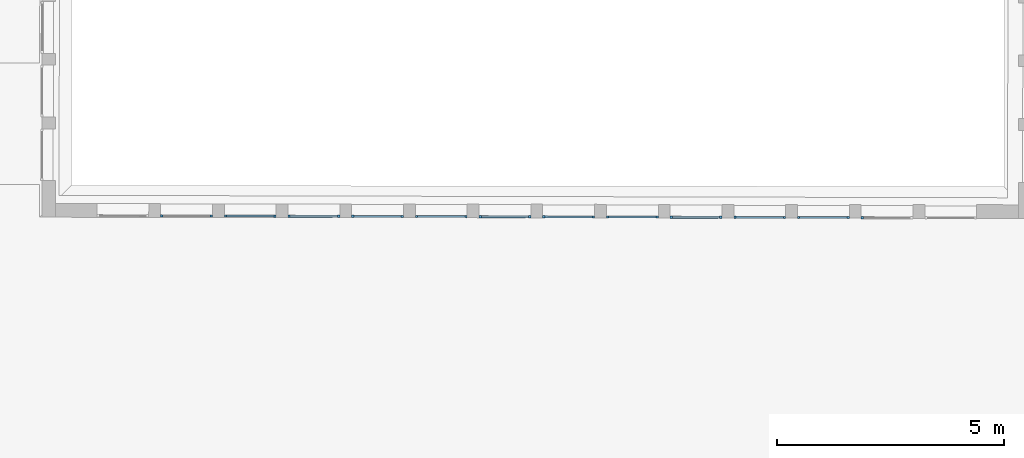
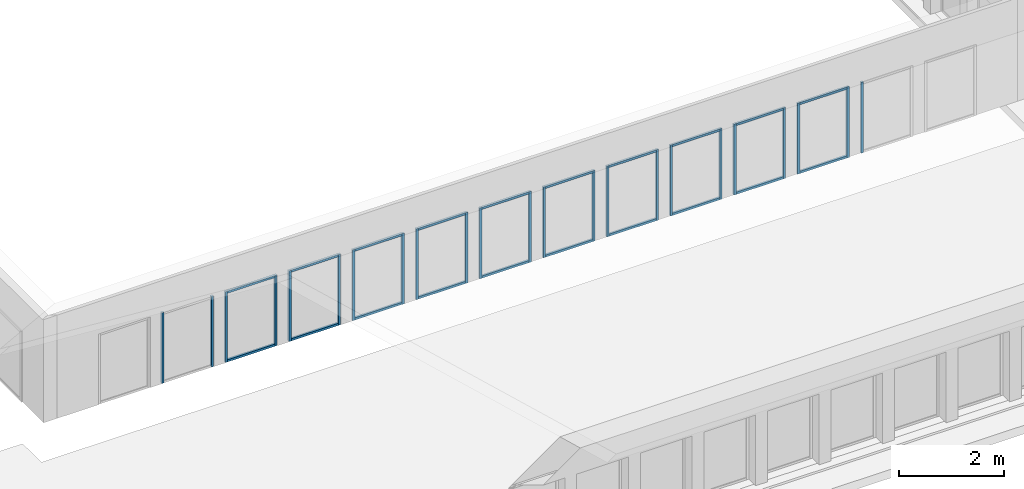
# One storey, part 6 of 26: 43 members, 12 elements without a shape of their own.
"""IFC2X3 building model written with IfcOpenShell, lengths in metres."""

from ifc_helpers import new_model, entity, si_unit, converted_unit, derived_unit, direction, frame, origin, origin_2d_with_axis, place, context, subcontext, project, spatial, rectangle, extrude, source, transform, mapped, material, type_object, type_shapes, element, aggregate, save


model = new_model("IFC2X3")

# Units and contexts
model_context = context("Model", 3, precision=1e-05, world=origin(), true_north=direction((6.123233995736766e-17, 1.0)))
body_context = subcontext(model_context, "Body", "Model", "MODEL_VIEW")
ifc_project = project(units=[si_unit("LENGTHUNIT", "METRE"), si_unit("AREAUNIT", "SQUARE_METRE"), converted_unit("PLANEANGLEUNIT", "DEGREE", entity("IfcPlaneAngleMeasure", 0.017453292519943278), si_unit("PLANEANGLEUNIT", "RADIAN"), dimensions=[0, 0, 0, 0, 0, 0, 0]), derived_unit("THERMALTRANSMITTANCEUNIT", [(si_unit("MASSUNIT", "GRAM", prefix="KILO"), 1), (si_unit("THERMODYNAMICTEMPERATUREUNIT", "KELVIN"), -1), (si_unit("TIMEUNIT", "SECOND"), -3)])], contexts=[model_context])

# Site, building, storey
site_placement = place(None, frame((1253.6752467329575, 2072.143113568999, 91.49999999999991), z_axis=(0.0, 0.0, 1.0), x_axis=(0.7237211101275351, 0.6900925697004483, 0.0)))
site = spatial("IfcSite", under=ifc_project, at=site_placement, Name="Surface", CompositionType="ELEMENT")
building_placement = place(site_placement, origin())
building = spatial("IfcBuilding", under=site, at=building_placement, CompositionType="ELEMENT")
storey_placement = place(building_placement, frame((0.0, 0.0, 7.0)))
storey = spatial("IfcBuildingStorey", under=building, at=storey_placement, Name="2-R+2", CompositionType="ELEMENT", Elevation=6.999999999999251)

# Curtain wall, member
curtain_wall_type = type_object("IfcCurtainWallType", Name="Mur-rideau:Menuiserie Ext 1F+1OB VERTIC", PredefinedType="NOTDEFINED")
curtain_wall_1_placement = place(storey_placement, frame((0.0, 0.0, -7.0)))
curtain_wall_1 = element("IfcCurtainWall", 1, at=curtain_wall_1_placement, inside=storey, type_object=curtain_wall_type, Name="Mur-rideau:Menuiserie Ext 1F+1OB VERTIC", ObjectType="Mur-rideau:Menuiserie Ext 1F+1OB VERTIC")
ifc_material = material(Name="OMD_Aluminium Men Ext")
member_type_1 = type_object("IfcMemberType", Name="Meneau rectangulaire:50x50", PredefinedType="MULLION", material=ifc_material)
shared_shape_1 = source(origin(), body_context, "Body", "SweptSolid", [
    extrude(rectangle(XDim=0.05, YDim=0.049999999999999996, at=origin_2d_with_axis()), frame((-0.025, 0.0, -1.039999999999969), z_axis=(0.0, 0.0, 1.0), x_axis=(-1.0, 0.0, 0.0)), (0.0, 0.0, 1.0), 1.0399999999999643),
])
type_shapes(member_type_1, [shared_shape_1])
member_1_placement = place(curtain_wall_1_placement, frame((163.32661227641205, -2.4502507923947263, 9.55), z_axis=(0.7228702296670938, -0.6909838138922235, 0.0), x_axis=(0.0, 0.0, 1.0)))
member_1 = element("IfcMember", 2, at=member_1_placement, type_object=member_type_1, material=ifc_material, Name="Meneau rectangulaire:50x50", ObjectType="Meneau rectangulaire:50x50", context=body_context, shape_type="MappedRepresentation", body=[
    mapped(shared_shape_1, transform((0.0, 0.0, 0.0), scale=1.0)),
])

curtain_wall_2_placement = place(storey_placement, frame((0.0, 0.0, -7.0)))
curtain_wall_2 = element("IfcCurtainWall", 3, at=curtain_wall_2_placement, inside=storey, type_object=curtain_wall_type, Name="Mur-rideau:Menuiserie Ext 1F+1OB VERTIC", ObjectType="Mur-rideau:Menuiserie Ext 1F+1OB VERTIC")
member_2_placement = place(curtain_wall_2_placement, frame((164.3373018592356, -3.419016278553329, 9.55), z_axis=(0.722870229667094, -0.6909838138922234, 0.0), x_axis=(0.0, 0.0, 1.0)))
member_2 = element("IfcMember", 4, at=member_2_placement, type_object=member_type_1, material=ifc_material, Name="Meneau rectangulaire:50x50", ObjectType="Meneau rectangulaire:50x50", context=body_context, shape_type="MappedRepresentation", body=[
    mapped(shared_shape_1, transform((0.0, 0.0, 0.0), scale=1.0)),
])

curtain_wall_3_placement = place(storey_placement, frame((0.0, 0.0, -7.0)))
curtain_wall_3 = element("IfcCurtainWall", 5, at=curtain_wall_3_placement, inside=storey, type_object=curtain_wall_type, Name="Mur-rideau:Menuiserie Ext 1F+1OB VERTIC", ObjectType="Mur-rideau:Menuiserie Ext 1F+1OB VERTIC")
member_3_placement = place(curtain_wall_3_placement, frame((165.34799144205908, -4.387781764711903, 9.55), z_axis=(0.722870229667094, -0.6909838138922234, 0.0), x_axis=(0.0, 0.0, 1.0)))
member_3 = element("IfcMember", 6, at=member_3_placement, type_object=member_type_1, material=ifc_material, Name="Meneau rectangulaire:50x50", ObjectType="Meneau rectangulaire:50x50", context=body_context, shape_type="MappedRepresentation", body=[
    mapped(shared_shape_1, transform((0.0, 0.0, 0.0), scale=1.0)),
])

curtain_wall_4_placement = place(storey_placement, frame((0.0, 0.0, -7.0)))
curtain_wall_4 = element("IfcCurtainWall", 7, at=curtain_wall_4_placement, inside=storey, type_object=curtain_wall_type, Name="Mur-rideau:Menuiserie Ext 1F+1OB VERTIC", ObjectType="Mur-rideau:Menuiserie Ext 1F+1OB VERTIC")
member_4_placement = place(curtain_wall_4_placement, frame((166.35868102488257, -5.35654725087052, 9.55), z_axis=(0.722870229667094, -0.6909838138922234, 0.0), x_axis=(0.0, 0.0, 1.0)))
member_4 = element("IfcMember", 8, at=member_4_placement, type_object=member_type_1, material=ifc_material, Name="Meneau rectangulaire:50x50", ObjectType="Meneau rectangulaire:50x50", context=body_context, shape_type="MappedRepresentation", body=[
    mapped(shared_shape_1, transform((0.0, 0.0, 0.0), scale=1.0)),
])

curtain_wall_5_placement = place(storey_placement, frame((0.0, 0.0, -7.0)))
curtain_wall_5 = element("IfcCurtainWall", 9, at=curtain_wall_5_placement, inside=storey, type_object=curtain_wall_type, Name="Mur-rideau:Menuiserie Ext 1F+1OB VERTIC", ObjectType="Mur-rideau:Menuiserie Ext 1F+1OB VERTIC")
member_5_placement = place(curtain_wall_5_placement, frame((167.36937060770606, -6.325312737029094, 9.55), z_axis=(0.7228702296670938, -0.6909838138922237, 0.0), x_axis=(0.0, 0.0, 1.0)))
member_5 = element("IfcMember", 10, at=member_5_placement, type_object=member_type_1, material=ifc_material, Name="Meneau rectangulaire:50x50", ObjectType="Meneau rectangulaire:50x50", context=body_context, shape_type="MappedRepresentation", body=[
    mapped(shared_shape_1, transform((0.0, 0.0, 0.0), scale=1.0)),
])

curtain_wall_6_placement = place(storey_placement, frame((0.0, 0.0, -7.0)))
curtain_wall_6 = element("IfcCurtainWall", 11, at=curtain_wall_6_placement, inside=storey, type_object=curtain_wall_type, Name="Mur-rideau:Menuiserie Ext 1F+1OB VERTIC", ObjectType="Mur-rideau:Menuiserie Ext 1F+1OB VERTIC")
member_6_placement = place(curtain_wall_6_placement, frame((168.38006019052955, -7.294078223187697, 9.55), z_axis=(0.7228702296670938, -0.6909838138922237, 0.0), x_axis=(0.0, 0.0, 1.0)))
member_6 = element("IfcMember", 12, at=member_6_placement, type_object=member_type_1, material=ifc_material, Name="Meneau rectangulaire:50x50", ObjectType="Meneau rectangulaire:50x50", context=body_context, shape_type="MappedRepresentation", body=[
    mapped(shared_shape_1, transform((0.0, 0.0, 0.0), scale=1.0)),
])

curtain_wall_7_placement = place(storey_placement, frame((0.0, 0.0, -7.0)))
curtain_wall_7 = element("IfcCurtainWall", 13, at=curtain_wall_7_placement, inside=storey, type_object=curtain_wall_type, Name="Mur-rideau:Menuiserie Ext 1F+1OB VERTIC", ObjectType="Mur-rideau:Menuiserie Ext 1F+1OB VERTIC")
member_7_placement = place(curtain_wall_7_placement, frame((169.39074977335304, -8.262843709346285, 9.55), z_axis=(0.7228702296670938, -0.6909838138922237, 0.0), x_axis=(0.0, 0.0, 1.0)))
member_7 = element("IfcMember", 14, at=member_7_placement, type_object=member_type_1, material=ifc_material, Name="Meneau rectangulaire:50x50", ObjectType="Meneau rectangulaire:50x50", context=body_context, shape_type="MappedRepresentation", body=[
    mapped(shared_shape_1, transform((0.0, 0.0, 0.0), scale=1.0)),
])

curtain_wall_8_placement = place(storey_placement, frame((0.0, 0.0, -7.0)))
curtain_wall_8 = element("IfcCurtainWall", 15, at=curtain_wall_8_placement, inside=storey, type_object=curtain_wall_type, Name="Mur-rideau:Menuiserie Ext 1F+1OB VERTIC", ObjectType="Mur-rideau:Menuiserie Ext 1F+1OB VERTIC")
member_8_placement = place(curtain_wall_8_placement, frame((170.40143935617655, -9.231609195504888, 9.55), z_axis=(0.7228702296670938, -0.6909838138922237, 0.0), x_axis=(0.0, 0.0, 1.0)))
member_8 = element("IfcMember", 16, at=member_8_placement, type_object=member_type_1, material=ifc_material, Name="Meneau rectangulaire:50x50", ObjectType="Meneau rectangulaire:50x50", context=body_context, shape_type="MappedRepresentation", body=[
    mapped(shared_shape_1, transform((0.0, 0.0, 0.0), scale=1.0)),
])

curtain_wall_9_placement = place(storey_placement, frame((0.0, 0.0, -7.0)))
curtain_wall_9 = element("IfcCurtainWall", 17, at=curtain_wall_9_placement, inside=storey, type_object=curtain_wall_type, Name="Mur-rideau:Menuiserie Ext 1F+1OB VERTIC", ObjectType="Mur-rideau:Menuiserie Ext 1F+1OB VERTIC")
member_9_placement = place(curtain_wall_9_placement, frame((171.41212893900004, -10.200374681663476, 9.55), z_axis=(0.7228702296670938, -0.6909838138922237, 0.0), x_axis=(0.0, 0.0, 1.0)))
member_9 = element("IfcMember", 18, at=member_9_placement, type_object=member_type_1, material=ifc_material, Name="Meneau rectangulaire:50x50", ObjectType="Meneau rectangulaire:50x50", context=body_context, shape_type="MappedRepresentation", body=[
    mapped(shared_shape_1, transform((0.0, 0.0, 0.0), scale=1.0)),
])

curtain_wall_10_placement = place(storey_placement, frame((0.0, 0.0, -7.0)))
curtain_wall_10 = element("IfcCurtainWall", 19, at=curtain_wall_10_placement, inside=storey, type_object=curtain_wall_type, Name="Mur-rideau:Menuiserie Ext 1F+1OB VERTIC", ObjectType="Mur-rideau:Menuiserie Ext 1F+1OB VERTIC")
member_10_placement = place(curtain_wall_10_placement, frame((172.4228185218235, -11.169140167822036, 9.55), z_axis=(0.7228702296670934, -0.6909838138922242, 0.0), x_axis=(0.0, 0.0, 1.0)))
member_10 = element("IfcMember", 20, at=member_10_placement, type_object=member_type_1, material=ifc_material, Name="Meneau rectangulaire:50x50", ObjectType="Meneau rectangulaire:50x50", context=body_context, shape_type="MappedRepresentation", body=[
    mapped(shared_shape_1, transform((0.0, 0.0, 0.0), scale=1.0)),
])

# Member
member_type_2 = type_object("IfcMemberType", Name="Meneau rectangulaire:50x50", PredefinedType="MULLION", material=ifc_material)
shared_shape_2 = source(origin(), body_context, "Body", "SweptSolid", [
    extrude(rectangle(XDim=0.05, YDim=0.05, at=origin_2d_with_axis()), frame((-0.025, 0.0, -1.0399999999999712), z_axis=(0.0, 0.0, 1.0), x_axis=(-1.0, 0.0, 0.0)), (0.0, 0.0, 1.0), 1.0399999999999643),
])
type_shapes(member_type_2, [shared_shape_2])
member_11_placement = place(curtain_wall_1_placement, frame((162.57482723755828, -1.7316276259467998, 7.9), z_axis=(-0.7228702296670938, 0.6909838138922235, 0.0), x_axis=(0.0, 0.0, -1.0)))
member_11 = element("IfcMember", 21, at=member_11_placement, type_object=member_type_2, material=ifc_material, Name="Meneau rectangulaire:50x50", ObjectType="Meneau rectangulaire:50x50", context=body_context, shape_type="MappedRepresentation", body=[
    mapped(shared_shape_2, transform((0.0, 0.0, 0.0), scale=1.0)),
])

member_12_placement = place(curtain_wall_2_placement, frame((163.58551682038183, -2.7003931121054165, 7.9), z_axis=(-0.722870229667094, 0.6909838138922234, 0.0), x_axis=(0.0, 0.0, -1.0)))
member_12 = element("IfcMember", 22, at=member_12_placement, type_object=member_type_2, material=ifc_material, Name="Meneau rectangulaire:50x50", ObjectType="Meneau rectangulaire:50x50", context=body_context, shape_type="MappedRepresentation", body=[
    mapped(shared_shape_2, transform((0.0, 0.0, 0.0), scale=1.0)),
])

member_13_placement = place(curtain_wall_3_placement, frame((164.59620640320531, -3.6691585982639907, 7.9), z_axis=(-0.722870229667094, 0.6909838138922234, 0.0), x_axis=(0.0, 0.0, -1.0)))
member_13 = element("IfcMember", 23, at=member_13_placement, type_object=member_type_2, material=ifc_material, Name="Meneau rectangulaire:50x50", ObjectType="Meneau rectangulaire:50x50", context=body_context, shape_type="MappedRepresentation", body=[
    mapped(shared_shape_2, transform((0.0, 0.0, 0.0), scale=1.0)),
])

member_14_placement = place(curtain_wall_4_placement, frame((165.6068959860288, -4.637924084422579, 7.9), z_axis=(-0.722870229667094, 0.6909838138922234, 0.0), x_axis=(0.0, 0.0, -1.0)))
member_14 = element("IfcMember", 24, at=member_14_placement, type_object=member_type_2, material=ifc_material, Name="Meneau rectangulaire:50x50", ObjectType="Meneau rectangulaire:50x50", context=body_context, shape_type="MappedRepresentation", body=[
    mapped(shared_shape_2, transform((0.0, 0.0, 0.0), scale=1.0)),
])

member_15_placement = place(curtain_wall_5_placement, frame((166.6175855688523, -5.6066895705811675, 7.9), z_axis=(-0.7228702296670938, 0.6909838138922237, 0.0), x_axis=(0.0, 0.0, -1.0)))
member_15 = element("IfcMember", 25, at=member_15_placement, type_object=member_type_2, material=ifc_material, Name="Meneau rectangulaire:50x50", ObjectType="Meneau rectangulaire:50x50", context=body_context, shape_type="MappedRepresentation", body=[
    mapped(shared_shape_2, transform((0.0, 0.0, 0.0), scale=1.0)),
])

member_16_placement = place(curtain_wall_6_placement, frame((167.62827515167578, -6.57545505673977, 7.9), z_axis=(-0.7228702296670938, 0.6909838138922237, 0.0), x_axis=(0.0, 0.0, -1.0)))
member_16 = element("IfcMember", 26, at=member_16_placement, type_object=member_type_2, material=ifc_material, Name="Meneau rectangulaire:50x50", ObjectType="Meneau rectangulaire:50x50", context=body_context, shape_type="MappedRepresentation", body=[
    mapped(shared_shape_2, transform((0.0, 0.0, 0.0), scale=1.0)),
])

member_17_placement = place(curtain_wall_7_placement, frame((168.63896473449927, -7.544220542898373, 7.9), z_axis=(-0.7228702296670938, 0.6909838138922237, 0.0), x_axis=(0.0, 0.0, -1.0)))
member_17 = element("IfcMember", 27, at=member_17_placement, type_object=member_type_2, material=ifc_material, Name="Meneau rectangulaire:50x50", ObjectType="Meneau rectangulaire:50x50", context=body_context, shape_type="MappedRepresentation", body=[
    mapped(shared_shape_2, transform((0.0, 0.0, 0.0), scale=1.0)),
])

member_18_placement = place(curtain_wall_8_placement, frame((169.64965431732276, -8.512986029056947, 7.9), z_axis=(-0.7228702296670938, 0.6909838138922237, 0.0), x_axis=(0.0, 0.0, -1.0)))
member_18 = element("IfcMember", 28, at=member_18_placement, type_object=member_type_2, material=ifc_material, Name="Meneau rectangulaire:50x50", ObjectType="Meneau rectangulaire:50x50", context=body_context, shape_type="MappedRepresentation", body=[
    mapped(shared_shape_2, transform((0.0, 0.0, 0.0), scale=1.0)),
])

member_19_placement = place(curtain_wall_9_placement, frame((170.66034390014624, -9.48175151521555, 7.9), z_axis=(-0.7228702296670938, 0.6909838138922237, 0.0), x_axis=(0.0, 0.0, -1.0)))
member_19 = element("IfcMember", 29, at=member_19_placement, type_object=member_type_2, material=ifc_material, Name="Meneau rectangulaire:50x50", ObjectType="Meneau rectangulaire:50x50", context=body_context, shape_type="MappedRepresentation", body=[
    mapped(shared_shape_2, transform((0.0, 0.0, 0.0), scale=1.0)),
])

member_20_placement = place(curtain_wall_10_placement, frame((171.67103348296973, -10.450517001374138, 7.9), z_axis=(-0.7228702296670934, 0.6909838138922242, 0.0), x_axis=(0.0, 0.0, -1.0)))
member_20 = element("IfcMember", 30, at=member_20_placement, type_object=member_type_2, material=ifc_material, Name="Meneau rectangulaire:50x50", ObjectType="Meneau rectangulaire:50x50", context=body_context, shape_type="MappedRepresentation", body=[
    mapped(shared_shape_2, transform((0.0, 0.0, 0.0), scale=1.0)),
])

# Curtain wall, member
curtain_wall_11_placement = place(storey_placement, frame((0.0, 0.0, -7.0)))
curtain_wall_11 = element("IfcCurtainWall", 31, at=curtain_wall_11_placement, inside=storey, type_object=curtain_wall_type, Name="Mur-rideau:Menuiserie Ext 1F+1OB VERTIC", ObjectType="Mur-rideau:Menuiserie Ext 1F+1OB VERTIC")
member_type_3 = type_object("IfcMemberType", Name="Meneau rectangulaire:50x50", PredefinedType="MULLION", material=ifc_material)
shared_shape_3 = source(origin(), body_context, "Body", "SweptSolid", [
    extrude(rectangle(XDim=0.05, YDim=0.05, at=origin_2d_with_axis()), frame((-0.025, 0.0, -1.6499999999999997), z_axis=(0.0, 0.0, 1.0), x_axis=(-1.0, 0.0, 0.0)), (0.0, 0.0, 1.0), 1.6499999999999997),
])
type_shapes(member_type_3, [shared_shape_3])
member_21_placement = place(curtain_wall_11_placement, frame((162.35206620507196, -1.5160344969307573, 7.9), z_axis=(0.0, 0.0, -1.0), x_axis=(0.7228702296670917, -0.6909838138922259, 0.0)))
member_21 = element("IfcMember", 32, at=member_21_placement, type_object=member_type_3, material=ifc_material, Name="Meneau rectangulaire:50x50", ObjectType="Meneau rectangulaire:50x50", context=body_context, shape_type="MappedRepresentation", body=[
    mapped(shared_shape_3, transform((0.0, 0.0, 0.0), scale=1.0)),
])

# Member
member_22_placement = place(curtain_wall_1_placement, frame((163.36275578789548, -2.4847999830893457, 7.9), z_axis=(0.0, 0.0, -1.0), x_axis=(0.7228702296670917, -0.6909838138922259, 0.0)))
member_22 = element("IfcMember", 33, at=member_22_placement, type_object=member_type_3, material=ifc_material, Name="Meneau rectangulaire:50x50", ObjectType="Meneau rectangulaire:50x50", context=body_context, shape_type="MappedRepresentation", body=[
    mapped(shared_shape_3, transform((0.0, 0.0, 0.0), scale=1.0)),
])

member_23_placement = place(curtain_wall_2_placement, frame((164.37344537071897, -3.4535654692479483, 7.9), z_axis=(0.0, 0.0, -1.0), x_axis=(0.7228702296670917, -0.6909838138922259, 0.0)))
member_23 = element("IfcMember", 34, at=member_23_placement, type_object=member_type_3, material=ifc_material, Name="Meneau rectangulaire:50x50", ObjectType="Meneau rectangulaire:50x50", context=body_context, shape_type="MappedRepresentation", body=[
    mapped(shared_shape_3, transform((0.0, 0.0, 0.0), scale=1.0)),
])

member_24_placement = place(curtain_wall_3_placement, frame((165.38413495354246, -4.422330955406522, 7.9), z_axis=(0.0, 0.0, -1.0), x_axis=(0.7228702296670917, -0.6909838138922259, 0.0)))
member_24 = element("IfcMember", 35, at=member_24_placement, type_object=member_type_3, material=ifc_material, Name="Meneau rectangulaire:50x50", ObjectType="Meneau rectangulaire:50x50", context=body_context, shape_type="MappedRepresentation", body=[
    mapped(shared_shape_3, transform((0.0, 0.0, 0.0), scale=1.0)),
])

member_25_placement = place(curtain_wall_4_placement, frame((166.39482453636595, -5.391096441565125, 7.9), z_axis=(0.0, 0.0, -1.0), x_axis=(0.7228702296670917, -0.6909838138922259, 0.0)))
member_25 = element("IfcMember", 36, at=member_25_placement, type_object=member_type_3, material=ifc_material, Name="Meneau rectangulaire:50x50", ObjectType="Meneau rectangulaire:50x50", context=body_context, shape_type="MappedRepresentation", body=[
    mapped(shared_shape_3, transform((0.0, 0.0, 0.0), scale=1.0)),
])

member_26_placement = place(curtain_wall_5_placement, frame((167.40551411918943, -6.359861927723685, 7.9), z_axis=(0.0, 0.0, -1.0), x_axis=(0.7228702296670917, -0.6909838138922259, 0.0)))
member_26 = element("IfcMember", 37, at=member_26_placement, type_object=member_type_3, material=ifc_material, Name="Meneau rectangulaire:50x50", ObjectType="Meneau rectangulaire:50x50", context=body_context, shape_type="MappedRepresentation", body=[
    mapped(shared_shape_3, transform((0.0, 0.0, 0.0), scale=1.0)),
])

member_27_placement = place(curtain_wall_6_placement, frame((168.4162037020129, -7.328627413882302, 7.9), z_axis=(0.0, 0.0, -1.0), x_axis=(0.7228702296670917, -0.6909838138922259, 0.0)))
member_27 = element("IfcMember", 38, at=member_27_placement, type_object=member_type_3, material=ifc_material, Name="Meneau rectangulaire:50x50", ObjectType="Meneau rectangulaire:50x50", context=body_context, shape_type="MappedRepresentation", body=[
    mapped(shared_shape_3, transform((0.0, 0.0, 0.0), scale=1.0)),
])

member_28_placement = place(curtain_wall_7_placement, frame((169.4268932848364, -8.29739290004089, 7.9), z_axis=(0.0, 0.0, -1.0), x_axis=(0.7228702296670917, -0.6909838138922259, 0.0)))
member_28 = element("IfcMember", 39, at=member_28_placement, type_object=member_type_3, material=ifc_material, Name="Meneau rectangulaire:50x50", ObjectType="Meneau rectangulaire:50x50", context=body_context, shape_type="MappedRepresentation", body=[
    mapped(shared_shape_3, transform((0.0, 0.0, 0.0), scale=1.0)),
])

member_29_placement = place(curtain_wall_8_placement, frame((170.4375828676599, -9.266158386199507, 7.9), z_axis=(0.0, 0.0, -1.0), x_axis=(0.7228702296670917, -0.6909838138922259, 0.0)))
member_29 = element("IfcMember", 40, at=member_29_placement, type_object=member_type_3, material=ifc_material, Name="Meneau rectangulaire:50x50", ObjectType="Meneau rectangulaire:50x50", context=body_context, shape_type="MappedRepresentation", body=[
    mapped(shared_shape_3, transform((0.0, 0.0, 0.0), scale=1.0)),
])

member_30_placement = place(curtain_wall_9_placement, frame((171.44827245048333, -10.234923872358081, 7.9), z_axis=(0.0, 0.0, -1.0), x_axis=(0.7228702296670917, -0.6909838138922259, 0.0)))
member_30 = element("IfcMember", 41, at=member_30_placement, type_object=member_type_3, material=ifc_material, Name="Meneau rectangulaire:50x50", ObjectType="Meneau rectangulaire:50x50", context=body_context, shape_type="MappedRepresentation", body=[
    mapped(shared_shape_3, transform((0.0, 0.0, 0.0), scale=1.0)),
])

member_31_placement = place(curtain_wall_10_placement, frame((172.45896203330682, -11.20368935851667, 7.9), z_axis=(0.0, 0.0, -1.0), x_axis=(0.7228702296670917, -0.6909838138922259, 0.0)))
member_31 = element("IfcMember", 42, at=member_31_placement, type_object=member_type_3, material=ifc_material, Name="Meneau rectangulaire:50x50", ObjectType="Meneau rectangulaire:50x50", context=body_context, shape_type="MappedRepresentation", body=[
    mapped(shared_shape_3, transform((0.0, 0.0, 0.0), scale=1.0)),
])

member_type_4 = type_object("IfcMemberType", Name="Meneau rectangulaire:50x50", PredefinedType="MULLION", material=ifc_material)
shared_shape_4 = source(origin(), body_context, "Body", "SweptSolid", [
    extrude(rectangle(XDim=0.05, YDim=0.05000000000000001, at=origin_2d_with_axis()), frame((-0.025, 0.0, -1.6499999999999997), z_axis=(0.0, 0.0, 1.0), x_axis=(-1.0, 0.0, 0.0)), (0.0, 0.0, 1.0), 1.6499999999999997),
])
type_shapes(member_type_4, [shared_shape_4])
member_32_placement = place(curtain_wall_11_placement, frame((161.5279941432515, -0.7283129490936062, 9.55), z_axis=(0.0, 0.0, 1.0), x_axis=(-0.7228702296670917, 0.6909838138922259, 0.0)))
member_32 = element("IfcMember", 43, at=member_32_placement, type_object=member_type_4, material=ifc_material, Name="Meneau rectangulaire:50x50", ObjectType="Meneau rectangulaire:50x50", context=body_context, shape_type="MappedRepresentation", body=[
    mapped(shared_shape_4, transform((0.0, 0.0, 0.0), scale=1.0)),
])

aggregate(curtain_wall_11, [member_21, member_32])

member_33_placement = place(curtain_wall_1_placement, frame((162.538683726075, -1.6970784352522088, 9.55), z_axis=(0.0, 0.0, 1.0), x_axis=(-0.7228702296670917, 0.6909838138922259, 0.0)))
member_33 = element("IfcMember", 44, at=member_33_placement, type_object=member_type_4, material=ifc_material, Name="Meneau rectangulaire:50x50", ObjectType="Meneau rectangulaire:50x50", context=body_context, shape_type="MappedRepresentation", body=[
    mapped(shared_shape_4, transform((0.0, 0.0, 0.0), scale=1.0)),
])

aggregate(curtain_wall_1, [member_1, member_11, member_22, member_33])

member_34_placement = place(curtain_wall_2_placement, frame((163.54937330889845, -2.665843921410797, 9.55), z_axis=(0.0, 0.0, 1.0), x_axis=(-0.7228702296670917, 0.6909838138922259, 0.0)))
member_34 = element("IfcMember", 45, at=member_34_placement, type_object=member_type_4, material=ifc_material, Name="Meneau rectangulaire:50x50", ObjectType="Meneau rectangulaire:50x50", context=body_context, shape_type="MappedRepresentation", body=[
    mapped(shared_shape_4, transform((0.0, 0.0, 0.0), scale=1.0)),
])

aggregate(curtain_wall_2, [member_2, member_12, member_23, member_34])

member_35_placement = place(curtain_wall_3_placement, frame((164.56006289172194, -3.6346094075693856, 9.55), z_axis=(0.0, 0.0, 1.0), x_axis=(-0.7228702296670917, 0.6909838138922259, 0.0)))
member_35 = element("IfcMember", 46, at=member_35_placement, type_object=member_type_4, material=ifc_material, Name="Meneau rectangulaire:50x50", ObjectType="Meneau rectangulaire:50x50", context=body_context, shape_type="MappedRepresentation", body=[
    mapped(shared_shape_4, transform((0.0, 0.0, 0.0), scale=1.0)),
])

aggregate(curtain_wall_3, [member_3, member_13, member_24, member_35])

member_36_placement = place(curtain_wall_4_placement, frame((165.57075247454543, -4.603374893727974, 9.55), z_axis=(0.0, 0.0, 1.0), x_axis=(-0.7228702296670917, 0.6909838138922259, 0.0)))
member_36 = element("IfcMember", 47, at=member_36_placement, type_object=member_type_4, material=ifc_material, Name="Meneau rectangulaire:50x50", ObjectType="Meneau rectangulaire:50x50", context=body_context, shape_type="MappedRepresentation", body=[
    mapped(shared_shape_4, transform((0.0, 0.0, 0.0), scale=1.0)),
])

aggregate(curtain_wall_4, [member_4, member_14, member_25, member_36])

member_37_placement = place(curtain_wall_5_placement, frame((166.58144205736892, -5.572140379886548, 9.55), z_axis=(0.0, 0.0, 1.0), x_axis=(-0.7228702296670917, 0.6909838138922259, 0.0)))
member_37 = element("IfcMember", 48, at=member_37_placement, type_object=member_type_4, material=ifc_material, Name="Meneau rectangulaire:50x50", ObjectType="Meneau rectangulaire:50x50", context=body_context, shape_type="MappedRepresentation", body=[
    mapped(shared_shape_4, transform((0.0, 0.0, 0.0), scale=1.0)),
])

aggregate(curtain_wall_5, [member_5, member_15, member_26, member_37])

member_38_placement = place(curtain_wall_6_placement, frame((167.5921316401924, -6.5409058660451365, 9.55), z_axis=(0.0, 0.0, 1.0), x_axis=(-0.7228702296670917, 0.6909838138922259, 0.0)))
member_38 = element("IfcMember", 49, at=member_38_placement, type_object=member_type_4, material=ifc_material, Name="Meneau rectangulaire:50x50", ObjectType="Meneau rectangulaire:50x50", context=body_context, shape_type="MappedRepresentation", body=[
    mapped(shared_shape_4, transform((0.0, 0.0, 0.0), scale=1.0)),
])

aggregate(curtain_wall_6, [member_6, member_16, member_27, member_38])

member_39_placement = place(curtain_wall_7_placement, frame((168.6028212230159, -7.509671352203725, 9.55), z_axis=(0.0, 0.0, 1.0), x_axis=(-0.7228702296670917, 0.6909838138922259, 0.0)))
member_39 = element("IfcMember", 50, at=member_39_placement, type_object=member_type_4, material=ifc_material, Name="Meneau rectangulaire:50x50", ObjectType="Meneau rectangulaire:50x50", context=body_context, shape_type="MappedRepresentation", body=[
    mapped(shared_shape_4, transform((0.0, 0.0, 0.0), scale=1.0)),
])

aggregate(curtain_wall_7, [member_7, member_17, member_28, member_39])

member_40_placement = place(curtain_wall_8_placement, frame((169.61351080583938, -8.478436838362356, 9.55), z_axis=(0.0, 0.0, 1.0), x_axis=(-0.7228702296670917, 0.6909838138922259, 0.0)))
member_40 = element("IfcMember", 51, at=member_40_placement, type_object=member_type_4, material=ifc_material, Name="Meneau rectangulaire:50x50", ObjectType="Meneau rectangulaire:50x50", context=body_context, shape_type="MappedRepresentation", body=[
    mapped(shared_shape_4, transform((0.0, 0.0, 0.0), scale=1.0)),
])

aggregate(curtain_wall_8, [member_8, member_18, member_29, member_40])

member_41_placement = place(curtain_wall_9_placement, frame((170.62420038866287, -9.44720232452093, 9.55), z_axis=(0.0, 0.0, 1.0), x_axis=(-0.7228702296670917, 0.6909838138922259, 0.0)))
member_41 = element("IfcMember", 52, at=member_41_placement, type_object=member_type_4, material=ifc_material, Name="Meneau rectangulaire:50x50", ObjectType="Meneau rectangulaire:50x50", context=body_context, shape_type="MappedRepresentation", body=[
    mapped(shared_shape_4, transform((0.0, 0.0, 0.0), scale=1.0)),
])

aggregate(curtain_wall_9, [member_9, member_19, member_30, member_41])

member_42_placement = place(curtain_wall_10_placement, frame((171.63488997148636, -10.415967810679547, 9.55), z_axis=(0.0, 0.0, 1.0), x_axis=(-0.7228702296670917, 0.6909838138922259, 0.0)))
member_42 = element("IfcMember", 53, at=member_42_placement, type_object=member_type_4, material=ifc_material, Name="Meneau rectangulaire:50x50", ObjectType="Meneau rectangulaire:50x50", context=body_context, shape_type="MappedRepresentation", body=[
    mapped(shared_shape_4, transform((0.0, 0.0, 0.0), scale=1.0)),
])

aggregate(curtain_wall_10, [member_10, member_20, member_31, member_42])

# Curtain wall, member
curtain_wall_12_placement = place(storey_placement, frame((0.0, 0.0, -7.0)))
curtain_wall_12 = element("IfcCurtainWall", 54, at=curtain_wall_12_placement, inside=storey, type_object=curtain_wall_type, Name="Mur-rideau:Menuiserie Ext 1F+1OB VERTIC", ObjectType="Mur-rideau:Menuiserie Ext 1F+1OB VERTIC")
member_43_placement = place(curtain_wall_12_placement, frame((172.64557955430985, -11.384733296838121, 9.55), z_axis=(0.0, 0.0, 1.0), x_axis=(-0.7228702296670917, 0.6909838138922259, 0.0)))
member_43 = element("IfcMember", 55, at=member_43_placement, type_object=member_type_4, material=ifc_material, Name="Meneau rectangulaire:50x50", ObjectType="Meneau rectangulaire:50x50", context=body_context, shape_type="MappedRepresentation", body=[
    mapped(shared_shape_4, transform((0.0, 0.0, 0.0), scale=1.0)),
])
aggregate(curtain_wall_12, [member_43])

save(model, "model.ifc")
